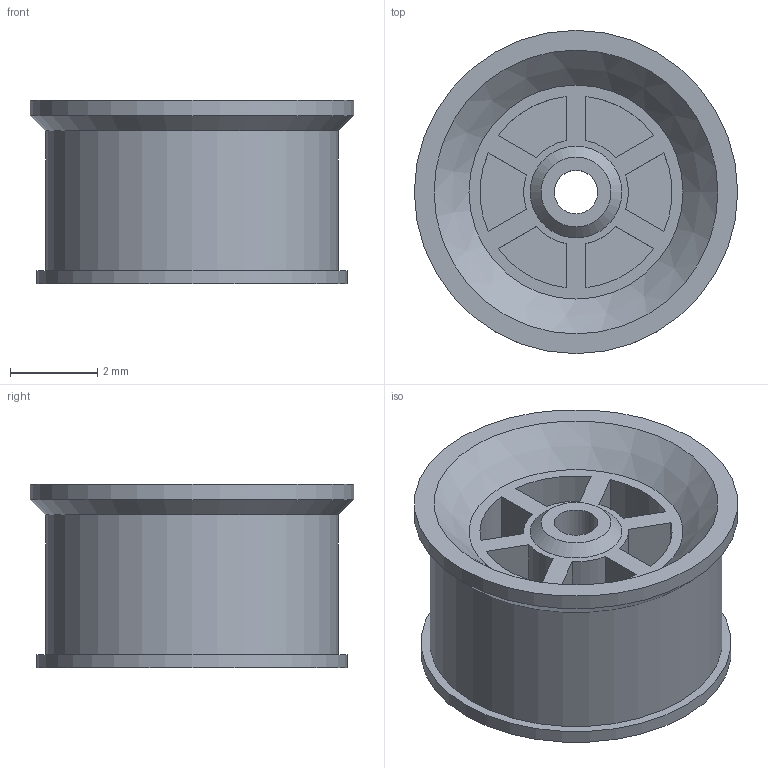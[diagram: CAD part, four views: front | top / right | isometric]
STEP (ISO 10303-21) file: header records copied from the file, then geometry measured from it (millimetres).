
FILE_DESCRIPTION(('Open CASCADE Model'),'2;1');
FILE_NAME('Open CASCADE Shape Model','2026-10-09T16:33:01',('Author'),( 'Open CASCADE'),'Open CASCADE STEP processor 8.0','build123d', 'Unknown');
FILE_SCHEMA(('AUTOMOTIVE_DESIGN { 1 0 10303 214 1 1 1 1 }'));
Length unit declared in the file: millimetre
Products named in the file (1): COMPOUND
Bounding box: 7.4 x 7.4 x 4.2 mm (x, y, z)
Volume: 121.2 mm3; surface area: 230.1 mm2
Topology: 1 solids, 1 shells, 42 faces, 91 edges, 60 vertices
Faces by surface type: plane 23, cylinder 16, cone 3
Full cylindrical faces by diameter (mm): 1 x1, 6.7 x1, 7.1 x1, 7.4 x1
Entity records: 2366 total; most frequent: CARTESIAN_POINT 479, DIRECTION 357, ORIENTED_EDGE 182, PCURVE 182, DEFINITIONAL_REPRESENTATION 182, LINE 178, VECTOR 178, EDGE_CURVE 91
